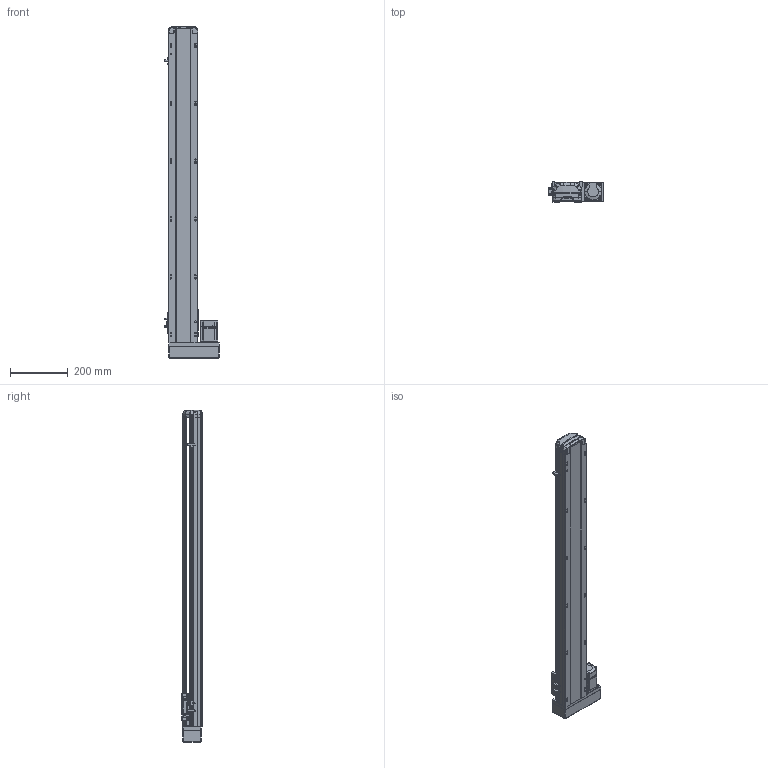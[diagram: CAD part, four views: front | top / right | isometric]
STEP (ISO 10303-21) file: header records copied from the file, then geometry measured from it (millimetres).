
FILE_DESCRIPTION (( 'STEP AP214' ), '1' );
FILE_NAME ('RTH10-XX-900-R-M20-C4.STEP', '2025-10-25T05:03:02', ( 'Microsoft' ), ( 'Microsoft' ), 'SwSTEP 2.0', 'SolidWorks 2018', '' );
FILE_SCHEMA (( 'AUTOMOTIVE_DESIGN' ));
Length unit declared in the file: millimetre
Products named in the file (10): N_OMRON EE-SX672 传感器^RTH10-XX-XX-R-M20-C4; N_RTH13-L-012覜茼え俋离^RTH10-XX-XX-R-M20-C4; N_RTH10-GY-001P^RTH10-XX-XX-R-M20-C4; N_RTH10-M-011P-臏倰第菁釱^RTH10-XX-XX-R-M20-C4; N_RTH10-L-018-裔赽^RTH10-XX-XX-R-M20-C4; N_RTH10-GY-004-賑釱^RTH10-XX-XX-R-M20-C4; N_RTH10-L-008萇儂啣^RTH10-XX-XX-R-M20-C4; N_RTH10-M-007P-奻裔^RTH10-XX-XX-R-M20-C4; RTH10-XX-900-R-M20-C4; N_200W-1^RTH10-XX-XX-R-M20-C4
Assembly tree (11 placements, depth 2):
  RTH10-XX-900-R-M20-C4
    N_RTH10-M-011P-臏倰第菁釱^RTH10-XX-XX-R-M20-C4
    N_RTH13-L-012覜茼え俋离^RTH10-XX-XX-R-M20-C4
    N_OMRON EE-SX672 传感器^RTH10-XX-XX-R-M20-C4  x3
    N_200W-1^RTH10-XX-XX-R-M20-C4
    N_RTH10-M-007P-奻裔^RTH10-XX-XX-R-M20-C4
    N_RTH10-L-008萇儂啣^RTH10-XX-XX-R-M20-C4
    N_RTH10-L-018-裔赽^RTH10-XX-XX-R-M20-C4
    N_RTH10-GY-004-賑釱^RTH10-XX-XX-R-M20-C4
    N_RTH10-GY-001P^RTH10-XX-XX-R-M20-C4
Bounding box: 190 x 70 x 1147.31 mm (x, y, z)
Volume: 4980873.7 mm3; surface area: 748849.5 mm2
Topology: 10 solids, 12 shells, 1996 faces, 5575 edges, 3661 vertices
Faces by surface type: plane 987, cylinder 502, bspline 472, cone 29, sphere 4, torus 2
Entity records: 60317 total; most frequent: CARTESIAN_POINT 23581, ORIENTED_EDGE 8222, DIRECTION 6389, EDGE_CURVE 4117, VERTEX_POINT 2705, VECTOR 2195, LINE 2195, AXIS2_PLACEMENT_3D 2097
